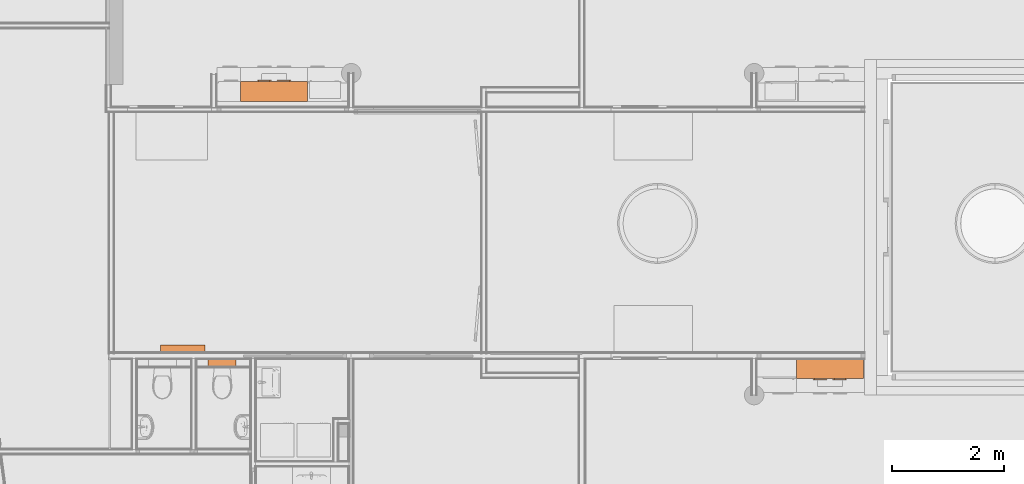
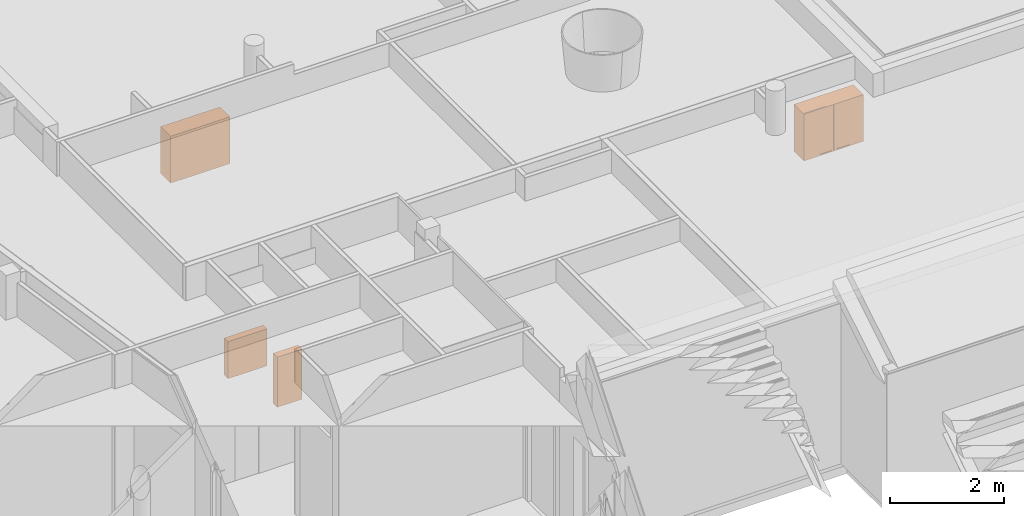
# One storey, part 111 of 167: 4 proxies.
"""IFC2X3 building model written with IfcOpenShell, lengths in millimetres."""

from ifc_helpers import new_model, entity, si_unit, converted_unit, derived_unit, money_unit, direction, frame, origin_with_axes, place, context, subcontext, project, spatial, open_shell, faceted_brep, surface_model, source, transform, mapped, type_object, type_shapes, element, save


model = new_model("IFC2X3")

# Units and contexts
model_context = context("Model", 3, precision=0.01, world=origin_with_axes(), true_north=direction((0.0, 1.0)))
plan_context = context("Plan", 3, precision=0.01, world=origin_with_axes(), true_north=direction((0.0, 1.0)))
body_context = subcontext(model_context, "Body", "Model", "MODEL_VIEW")
ifc_project = project(units=[si_unit("LENGTHUNIT", "METRE", prefix="MILLI"), si_unit("AREAUNIT", "SQUARE_METRE"), si_unit("VOLUMEUNIT", "CUBIC_METRE"), converted_unit("PLANEANGLEUNIT", "DEGREE", entity("IfcPlaneAngleMeasure", 0.0174532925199), si_unit("PLANEANGLEUNIT", "RADIAN"), dimensions=[0, 0, 0, 0, 0, 0, 0]), si_unit("SOLIDANGLEUNIT", "STERADIAN"), money_unit("EUR"), converted_unit("TIMEUNIT", "Year", entity("IfcTimeMeasure", 31556926.0), si_unit("TIMEUNIT", "SECOND"), dimensions=[0, 0, 1, 0, 0, 0, 0]), si_unit("MASSUNIT", "GRAM", prefix="KILO"), si_unit("THERMODYNAMICTEMPERATUREUNIT", "DEGREE_CELSIUS"), si_unit("LUMINOUSINTENSITYUNIT", "LUMEN"), si_unit("ENERGYUNIT", "JOULE", prefix="MEGA"), derived_unit("THERMALCONDUCTANCEUNIT", [(si_unit("POWERUNIT", "WATT"), 1), (si_unit("LENGTHUNIT", "METRE"), -1), (si_unit("THERMODYNAMICTEMPERATUREUNIT", "KELVIN"), -1)]), derived_unit("SPECIFICHEATCAPACITYUNIT", [(si_unit("ENERGYUNIT", "JOULE"), 1), (si_unit("MASSUNIT", "GRAM", prefix="KILO"), -1), (si_unit("THERMODYNAMICTEMPERATUREUNIT", "KELVIN"), -1)]), derived_unit("MASSDENSITYUNIT", [(si_unit("MASSUNIT", "GRAM", prefix="KILO"), 1), (si_unit("VOLUMEUNIT", "CUBIC_METRE"), -1)])], contexts=[model_context, plan_context])

# Site, building, storey
site_placement = place(None, origin_with_axes())
site = spatial("IfcSite", under=ifc_project, at=site_placement, Name="Site", CompositionType="ELEMENT")
building_placement = place(site_placement, origin_with_axes())
building = spatial("IfcBuilding", under=site, at=building_placement, Name="Naam gebouw", CompositionType="ELEMENT")
storey_placement = place(building_placement, origin_with_axes())
storey = spatial("IfcBuildingStorey", under=building, at=storey_placement, Name="Begane grond", CompositionType="ELEMENT", Elevation=0.0)

# Proxies
building_element_proxy_type_1 = type_object("IfcBuildingElementProxyType", Name="Brandslanghaspelkast 24 KM", PredefinedType="NOTDEFINED")
shared_shape_1 = source(origin_with_axes(), body_context, "Body", "Brep", [
    faceted_brep([(0.0, 0.0, 790.0), (-790.0, 0.0, 790.0), (-790.0, 0.0, 0.0), (0.0, 0.0, 0.0), (-10.0, 0.0, 10.0), (-780.0, 0.0, 10.0), (-780.0, 0.0, 780.0), (-10.0, 0.0, 780.0), (0.0, 135.0, 790.0), (-790.0, 135.0, 790.0), (-790.0, 135.0, 0.0), (0.0, 135.0, 0.0), (-10.0, 125.0, 10.0), (-780.0, 125.0, 10.0), (-780.0, 125.0, 780.0), (-10.0, 125.0, 780.0)], [[[0, 1, 2, 3], [4, 5, 6, 7]], [[8, 9, 1, 0]], [[1, 9, 10, 2]], [[10, 11, 3, 2]], [[8, 0, 3, 11]], [[4, 12, 13, 5]], [[5, 13, 14, 6]], [[6, 14, 15, 7]], [[7, 15, 12, 4]], [[9, 8, 11, 10]], [[13, 12, 15, 14]]]),
    faceted_brep([(-780.1, 0.0, 10.1), (-780.1, 10.0, 10.1), (-10.1, 10.0, 10.1), (-10.1, 0.0, 10.1), (-780.1, 0.0, 779.9), (-780.1, 10.0, 779.9), (-10.1, 10.0, 779.9), (-10.1, 0.0, 779.9)], [[[0, 1, 2, 3]], [[0, 4, 5, 1]], [[1, 5, 6, 2]], [[2, 6, 7, 3]], [[3, 7, 4, 0]], [[7, 6, 5, 4]]]),
])
type_shapes(building_element_proxy_type_1, [shared_shape_1])
proxy_1_placement = place(storey_placement, frame((25393.6304548, 37497.5, 750.0), z_axis=(0.0, 0.0, 1.0), x_axis=(-1.0, 0.0, 0.0)))
element("IfcBuildingElementProxy", 1, at=proxy_1_placement, inside=storey, type_object=building_element_proxy_type_1, Name="__Object-x", context=body_context, shape_type="MappedRepresentation", body=[
    mapped(shared_shape_1, transform((0.0, 0.0, 0.0))),
])
building_element_proxy_type_2 = type_object("IfcBuildingElementProxyType", Name="Inbouwreservoir 24 KM", PredefinedType="NOTDEFINED")
shared_shape_2 = source(origin_with_axes(), body_context, "Body", "SurfaceModel", [
    faceted_brep([(0.0, 0.0, 0.0), (501.499856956, 0.0, 0.0), (501.499856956, 0.0, 1070.0), (0.0, 0.0, 1070.0), (0.0, 145.000476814, 0.0), (501.499856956, 145.000476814, 0.0), (501.499856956, 145.000476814, 1070.0), (0.0, 145.000476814, 1070.0)], [[[0, 1, 2, 3]], [[0, 4, 5, 1]], [[1, 5, 6, 2]], [[3, 2, 6, 7]], [[4, 0, 3, 7]], [[5, 4, 7, 6]]]),
    surface_model("IfcShellBasedSurfaceModel", [(1.0, 0.0, 0.0), (500.499856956, 0.0, 0.0), (500.499856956, 145.000476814, 1070.0), (1.0, 145.000476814, 1070.0)], [open_shell([[[0, 1, 2, 3]]])]),
    surface_model("IfcShellBasedSurfaceModel", [(1.0, 0.0, 1070.0), (500.499856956, 0.0, 1070.0), (500.499856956, 145.000476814, 0.0), (1.0, 145.000476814, 0.0)], [open_shell([[[0, 1, 2, 3]]])]),
    faceted_brep([(375.749928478, -10.0, 820.0), (125.749928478, -10.0, 820.0), (125.749928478, 0.0, 820.0), (375.749928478, 0.0, 820.0), (375.749928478, -10.0, 980.0), (125.749928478, -10.0, 980.0), (125.749928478, 0.0, 980.0), (375.749928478, 0.0, 980.0)], [[[0, 1, 2, 3]], [[1, 0, 4, 5]], [[2, 1, 5, 6]], [[3, 2, 6, 7]], [[0, 3, 7, 4]], [[5, 4, 7, 6]]]),
    surface_model("IfcShellBasedSurfaceModel", [(325.749928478, 0.0, 850.0), (175.749928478, 0.0, 850.0), (175.749928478, 0.0, 950.0), (325.749928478, 0.0, 950.0)], [open_shell([[[0, 1, 2, 3]]])]),
    surface_model("IfcShellBasedSurfaceModel", [(175.749928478, -10.0, 820.0), (325.749928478, -10.0, 820.0), (325.749928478, -10.0, 855.0), (175.749928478, -10.0, 855.0)], [open_shell([[[0, 1, 2, 3]]])]),
    surface_model("IfcShellBasedSurfaceModel", [(175.749928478, -10.0, 855.0), (265.749928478, -10.0, 855.0), (265.749928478, -10.0, 945.0), (175.749928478, -10.0, 945.0)], [open_shell([[[0, 1, 2, 3]]])]),
    surface_model("IfcShellBasedSurfaceModel", [(265.749928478, -10.0, 855.0), (325.749928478, -10.0, 855.0), (325.749928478, -10.0, 945.0), (265.749928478, -10.0, 945.0)], [open_shell([[[0, 1, 2, 3]]])]),
])
type_shapes(building_element_proxy_type_2, [shared_shape_2])
proxy_2_placement = place(storey_placement, frame((26742.0675318, 37250.0, 0.0), z_axis=(0.0, 0.0, 1.0), x_axis=(-0.999999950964, 0.000313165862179, 0.0)))
element("IfcBuildingElementProxy", 2, at=proxy_2_placement, inside=storey, type_object=building_element_proxy_type_2, Name="__Object-x", context=body_context, shape_type="MappedRepresentation", body=[
    mapped(shared_shape_2, transform((0.0, 0.0, 0.0))),
])
building_element_proxy_type_3 = type_object("IfcBuildingElementProxyType", Name="Kast wand 2D 24", PredefinedType="NOTDEFINED")
shared_shape_3 = source(origin_with_axes(), body_context, "Body", "SurfaceModel", [
    faceted_brep([(0.0, 20.0, 2480.0), (0.0, 20.0, 2500.0), (-20.0, 20.0, 2500.0), (-20.0, 20.0, 2480.0), (0.0, 350.0, 2480.0), (0.0, 350.0, 2500.0), (-20.0, 350.0, 2500.0), (-1180.0, 350.0, 2500.0), (-1200.0, 350.0, 2500.0), (-1200.0, 20.0, 2500.0), (-1180.0, 20.0, 2500.0), (-1180.0, 20.0, 2480.0), (-1200.0, 20.0, 2480.0), (-1200.0, 350.0, 2480.0), (-1180.0, 350.0, 2480.0), (-20.0, 350.0, 2480.0)], [[[0, 1, 2, 3]], [[4, 5, 1, 0]], [[1, 5, 6, 7, 8, 9, 10, 2]], [[3, 2, 10, 11]], [[0, 3, 11, 12, 13, 14, 15, 4]], [[15, 6, 5, 4]], [[14, 7, 6, 15]], [[13, 8, 7, 14]], [[12, 9, 8, 13]], [[11, 10, 9, 12]]]),
    faceted_brep([(0.0, 20.0, 1500.0), (0.0, 20.0, 1520.0), (-20.0, 20.0, 1520.0), (-20.0, 20.0, 1500.0), (0.0, 350.0, 1500.0), (0.0, 350.0, 1520.0), (-20.0, 350.0, 1520.0), (-1180.0, 350.0, 1520.0), (-1200.0, 350.0, 1520.0), (-1200.0, 20.0, 1520.0), (-1180.0, 20.0, 1520.0), (-1180.0, 20.0, 1500.0), (-1200.0, 20.0, 1500.0), (-1200.0, 350.0, 1500.0), (-1180.0, 350.0, 1500.0), (-20.0, 350.0, 1500.0)], [[[0, 1, 2, 3]], [[4, 5, 1, 0]], [[1, 5, 6, 7, 8, 9, 10, 2]], [[3, 2, 10, 11]], [[0, 3, 11, 12, 13, 14, 15, 4]], [[15, 6, 5, 4]], [[14, 7, 6, 15]], [[13, 8, 7, 14]], [[12, 9, 8, 13]], [[11, 10, 9, 12]]]),
    faceted_brep([(0.0, 20.0, 1520.0), (0.0, 20.0, 2480.0), (-20.0, 20.0, 2480.0), (-20.0, 20.0, 1520.0), (0.0, 350.0, 1520.0), (0.0, 350.0, 2480.0), (-1200.0, 350.0, 2480.0), (-1200.0, 20.0, 2480.0), (-1180.0, 20.0, 2480.0), (-1180.0, 330.0, 2480.0), (-20.0, 330.0, 2480.0), (-20.0, 330.0, 1520.0), (-1180.0, 330.0, 1520.0), (-1180.0, 20.0, 1520.0), (-1200.0, 20.0, 1520.0), (-1200.0, 350.0, 1520.0)], [[[0, 1, 2, 3]], [[4, 5, 1, 0]], [[1, 5, 6, 7, 8, 9, 10, 2]], [[3, 2, 10, 11]], [[0, 3, 11, 12, 13, 14, 15, 4]], [[15, 6, 5, 4]], [[14, 7, 6, 15]], [[13, 8, 7, 14]], [[12, 9, 8, 13]], [[11, 10, 9, 12]]]),
    faceted_brep([(-1180.0, 20.0, 1813.33333333), (-1180.0, 20.0, 1833.33333333), (-1180.0, 330.0, 1833.33333333), (-1180.0, 330.0, 1813.33333333), (-20.0, 20.0, 1813.33333333), (-20.0, 20.0, 1833.33333333), (-20.0, 330.0, 1833.33333333), (-20.0, 330.0, 1813.33333333)], [[[0, 1, 2, 3]], [[4, 5, 1, 0]], [[1, 5, 6, 2]], [[3, 2, 6, 7]], [[0, 3, 7, 4]], [[7, 6, 5, 4]]]),
    faceted_brep([(-1180.0, 20.0, 2146.66666667), (-1180.0, 20.0, 2166.66666667), (-1180.0, 330.0, 2166.66666667), (-1180.0, 330.0, 2146.66666667), (-20.0, 20.0, 2146.66666667), (-20.0, 20.0, 2166.66666667), (-20.0, 330.0, 2166.66666667), (-20.0, 330.0, 2146.66666667)], [[[0, 1, 2, 3]], [[4, 5, 1, 0]], [[1, 5, 6, 2]], [[3, 2, 6, 7]], [[0, 3, 7, 4]], [[7, 6, 5, 4]]]),
    faceted_brep([(-1.5, 20.0, 1501.5), (-1.5, 0.0, 1501.5), (-598.5, 0.0, 1501.5), (-598.5, 20.0, 1501.5), (-1.5, 20.0, 2498.5), (-1.5, 0.0, 2498.5), (-598.5, 0.0, 2498.5), (-598.5, 20.0, 2498.5)], [[[0, 1, 2, 3]], [[4, 5, 1, 0]], [[1, 5, 6, 2]], [[3, 2, 6, 7]], [[0, 3, 7, 4]], [[7, 6, 5, 4]]]),
    faceted_brep([(-298.5, -28.1480502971, 1548.7283614), (-298.5, -27.0, 1548.5), (-298.5, -25.8519497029, 1548.7283614), (-298.5, -24.8786796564, 1549.37867966), (-298.5, -24.2283614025, 1550.3519497), (-298.5, -24.0, 1551.5), (-298.5, -24.2283614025, 1552.6480503), (-298.5, -24.8786796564, 1553.62132034), (-298.5, -25.8519497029, 1554.2716386), (-298.5, -27.0, 1554.5), (-298.5, -28.1480502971, 1554.2716386), (-298.5, -29.1213203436, 1553.62132034), (-298.5, -29.7716385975, 1552.6480503), (-298.5, -30.0, 1551.5), (-298.5, -29.7716385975, 1550.3519497), (-298.5, -29.1213203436, 1549.37867966), (-548.5, -28.1480502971, 1548.7283614), (-548.5, -27.0, 1548.5), (-548.5, -25.8519497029, 1548.7283614), (-548.5, -24.8786796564, 1549.37867966), (-548.5, -24.2283614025, 1550.3519497), (-548.5, -24.0, 1551.5), (-548.5, -24.2283614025, 1552.6480503), (-548.5, -24.8786796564, 1553.62132034), (-548.5, -25.8519497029, 1554.2716386), (-548.5, -27.0, 1554.5), (-548.5, -28.1480502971, 1554.2716386), (-548.5, -29.1213203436, 1553.62132034), (-548.5, -29.7716385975, 1552.6480503), (-548.5, -30.0, 1551.5), (-548.5, -29.7716385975, 1550.3519497), (-548.5, -29.1213203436, 1549.37867966)], [[[0, 1, 2, 3, 4, 5, 6, 7, 8, 9, 10, 11, 12, 13, 14, 15]], [[0, 16, 17, 1]], [[1, 17, 18, 2]], [[2, 18, 19, 3]], [[3, 19, 20, 4]], [[4, 20, 21, 5]], [[5, 21, 22, 6]], [[6, 22, 23, 7]], [[7, 23, 24, 8]], [[8, 24, 25, 9]], [[9, 25, 26, 10]], [[10, 26, 27, 11]], [[11, 27, 28, 12]], [[12, 28, 29, 13]], [[13, 29, 30, 14]], [[14, 30, 31, 15]], [[15, 31, 16, 0]], [[16, 31, 30, 29, 28, 27, 26, 25, 24, 23, 22, 21, 20, 19, 18, 17]]]),
    surface_model("IfcShellBasedSurfaceModel", [(-321.190301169, -24.156637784, 1550.54329142), (-321.190301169, 0.0, 1550.54329142), (-321.0, 0.0, 1551.5), (-321.0, -24.0, 1551.5), (-321.732233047, -24.5761600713, 1549.73223305), (-321.732233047, 0.0, 1549.73223305), (-322.543291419, 0.0, 1549.19030117), (-323.5, 0.0, 1549.0), (-324.456708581, 0.0, 1549.19030117), (-325.267766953, 0.0, 1549.73223305), (-325.809698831, 0.0, 1550.54329142), (-326.0, 0.0, 1551.5), (-325.809698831, 0.0, 1552.45670858), (-325.267766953, 0.0, 1553.26776695), (-324.456708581, 0.0, 1553.80969883), (-323.5, 0.0, 1554.0), (-322.543291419, 0.0, 1553.80969883), (-321.732233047, 0.0, 1553.26776695), (-321.190301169, 0.0, 1552.45670858), (-321.190301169, -24.156637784, 1552.45670858), (-322.543291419, -25.0855049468, 1549.19030117), (-323.5, -25.3416876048, 1549.0), (-324.456708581, -25.0855049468, 1549.19030117), (-325.267766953, -24.5761600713, 1549.73223305), (-325.809698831, -24.156637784, 1550.54329142), (-326.0, -24.0, 1551.5), (-325.809698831, -24.156637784, 1552.45670858), (-325.267766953, -24.5761600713, 1553.26776695), (-324.456708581, -25.0855049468, 1553.80969883), (-323.5, -25.3416876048, 1554.0), (-322.543291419, -25.0855049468, 1553.80969883), (-321.732233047, -24.5761600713, 1553.26776695)], [open_shell([[[0, 1, 2, 3]], [[4, 5, 1, 0]], [[1, 5, 6, 7, 8, 9, 10, 11, 12, 13, 14, 15, 16, 17, 18, 2]], [[3, 2, 18, 19]], [[20, 6, 5, 4]], [[21, 7, 6, 20]], [[22, 8, 7, 21]], [[23, 9, 8, 22]], [[24, 10, 9, 23]], [[25, 11, 10, 24]], [[26, 12, 11, 25]], [[27, 13, 12, 26]], [[28, 14, 13, 27]], [[29, 15, 14, 28]], [[30, 16, 15, 29]], [[31, 17, 16, 30]], [[19, 18, 17, 31]]])]),
    surface_model("IfcShellBasedSurfaceModel", [(-521.190301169, -24.156637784, 1550.54329142), (-521.190301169, 0.0, 1550.54329142), (-521.0, 0.0, 1551.5), (-521.0, -24.0, 1551.5), (-521.732233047, -24.5761600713, 1549.73223305), (-521.732233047, 0.0, 1549.73223305), (-522.543291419, 0.0, 1549.19030117), (-523.5, 0.0, 1549.0), (-524.456708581, 0.0, 1549.19030117), (-525.267766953, 0.0, 1549.73223305), (-525.809698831, 0.0, 1550.54329142), (-526.0, 0.0, 1551.5), (-525.809698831, 0.0, 1552.45670858), (-525.267766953, 0.0, 1553.26776695), (-524.456708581, 0.0, 1553.80969883), (-523.5, 0.0, 1554.0), (-522.543291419, 0.0, 1553.80969883), (-521.732233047, 0.0, 1553.26776695), (-521.190301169, 0.0, 1552.45670858), (-521.190301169, -24.156637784, 1552.45670858), (-522.543291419, -25.0855049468, 1549.19030117), (-523.5, -25.3416876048, 1549.0), (-524.456708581, -25.0855049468, 1549.19030117), (-525.267766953, -24.5761600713, 1549.73223305), (-525.809698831, -24.156637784, 1550.54329142), (-526.0, -24.0, 1551.5), (-525.809698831, -24.156637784, 1552.45670858), (-525.267766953, -24.5761600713, 1553.26776695), (-524.456708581, -25.0855049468, 1553.80969883), (-523.5, -25.3416876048, 1554.0), (-522.543291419, -25.0855049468, 1553.80969883), (-521.732233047, -24.5761600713, 1553.26776695)], [open_shell([[[0, 1, 2, 3]], [[4, 5, 1, 0]], [[1, 5, 6, 7, 8, 9, 10, 11, 12, 13, 14, 15, 16, 17, 18, 2]], [[3, 2, 18, 19]], [[20, 6, 5, 4]], [[21, 7, 6, 20]], [[22, 8, 7, 21]], [[23, 9, 8, 22]], [[24, 10, 9, 23]], [[25, 11, 10, 24]], [[26, 12, 11, 25]], [[27, 13, 12, 26]], [[28, 14, 13, 27]], [[29, 15, 14, 28]], [[30, 16, 15, 29]], [[31, 17, 16, 30]], [[19, 18, 17, 31]]])]),
    faceted_brep([(-1198.5, 20.0, 1501.5), (-601.5, 20.0, 1501.5), (-601.5, 0.0, 1501.5), (-1198.5, 0.0, 1501.5), (-1198.5, 20.0, 2498.5), (-601.5, 20.0, 2498.5), (-601.5, 0.0, 2498.5), (-1198.5, 0.0, 2498.5)], [[[0, 1, 2, 3]], [[0, 4, 5, 1]], [[1, 5, 6, 2]], [[3, 2, 6, 7]], [[4, 0, 3, 7]], [[5, 4, 7, 6]]]),
    faceted_brep([(-901.5, -28.1480502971, 1548.7283614), (-901.5, -29.1213203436, 1549.37867966), (-901.5, -29.7716385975, 1550.3519497), (-901.5, -30.0, 1551.5), (-901.5, -29.7716385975, 1552.6480503), (-901.5, -29.1213203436, 1553.62132034), (-901.5, -28.1480502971, 1554.2716386), (-901.5, -27.0, 1554.5), (-901.5, -25.8519497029, 1554.2716386), (-901.5, -24.8786796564, 1553.62132034), (-901.5, -24.2283614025, 1552.6480503), (-901.5, -24.0, 1551.5), (-901.5, -24.2283614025, 1550.3519497), (-901.5, -24.8786796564, 1549.37867966), (-901.5, -25.8519497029, 1548.7283614), (-901.5, -27.0, 1548.5), (-651.5, -28.1480502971, 1548.7283614), (-651.5, -29.1213203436, 1549.37867966), (-651.5, -29.7716385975, 1550.3519497), (-651.5, -30.0, 1551.5), (-651.5, -29.7716385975, 1552.6480503), (-651.5, -29.1213203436, 1553.62132034), (-651.5, -28.1480502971, 1554.2716386), (-651.5, -27.0, 1554.5), (-651.5, -25.8519497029, 1554.2716386), (-651.5, -24.8786796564, 1553.62132034), (-651.5, -24.2283614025, 1552.6480503), (-651.5, -24.0, 1551.5), (-651.5, -24.2283614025, 1550.3519497), (-651.5, -24.8786796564, 1549.37867966), (-651.5, -25.8519497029, 1548.7283614), (-651.5, -27.0, 1548.5)], [[[0, 1, 2, 3, 4, 5, 6, 7, 8, 9, 10, 11, 12, 13, 14, 15]], [[1, 0, 16, 17]], [[2, 1, 17, 18]], [[3, 2, 18, 19]], [[4, 3, 19, 20]], [[5, 4, 20, 21]], [[6, 5, 21, 22]], [[7, 6, 22, 23]], [[8, 7, 23, 24]], [[9, 8, 24, 25]], [[10, 9, 25, 26]], [[11, 10, 26, 27]], [[12, 11, 27, 28]], [[13, 12, 28, 29]], [[14, 13, 29, 30]], [[15, 14, 30, 31]], [[0, 15, 31, 16]], [[16, 31, 30, 29, 28, 27, 26, 25, 24, 23, 22, 21, 20, 19, 18, 17]]]),
    surface_model("IfcShellBasedSurfaceModel", [(-878.809698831, -24.156637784, 1550.54329142), (-879.0, -24.0, 1551.5), (-879.0, 0.0, 1551.5), (-878.809698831, 0.0, 1550.54329142), (-878.809698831, -24.156637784, 1552.45670858), (-878.809698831, 0.0, 1552.45670858), (-878.267766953, 0.0, 1553.26776695), (-877.456708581, 0.0, 1553.80969883), (-876.5, 0.0, 1554.0), (-875.543291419, 0.0, 1553.80969883), (-874.732233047, 0.0, 1553.26776695), (-874.190301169, 0.0, 1552.45670858), (-874.0, 0.0, 1551.5), (-874.190301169, 0.0, 1550.54329142), (-874.732233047, 0.0, 1549.73223305), (-875.543291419, 0.0, 1549.19030117), (-876.5, 0.0, 1549.0), (-877.456708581, 0.0, 1549.19030117), (-878.267766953, 0.0, 1549.73223305), (-878.267766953, -24.5761600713, 1549.73223305), (-878.267766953, -24.5761600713, 1553.26776695), (-877.456708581, -25.0855049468, 1553.80969883), (-876.5, -25.3416876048, 1554.0), (-875.543291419, -25.0855049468, 1553.80969883), (-874.732233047, -24.5761600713, 1553.26776695), (-874.190301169, -24.156637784, 1552.45670858), (-874.0, -24.0, 1551.5), (-874.190301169, -24.156637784, 1550.54329142), (-874.732233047, -24.5761600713, 1549.73223305), (-875.543291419, -25.0855049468, 1549.19030117), (-876.5, -25.3416876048, 1549.0), (-877.456708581, -25.0855049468, 1549.19030117)], [open_shell([[[0, 1, 2, 3]], [[1, 4, 5, 2]], [[3, 2, 5, 6, 7, 8, 9, 10, 11, 12, 13, 14, 15, 16, 17, 18]], [[19, 0, 3, 18]], [[4, 20, 6, 5]], [[20, 21, 7, 6]], [[21, 22, 8, 7]], [[22, 23, 9, 8]], [[23, 24, 10, 9]], [[24, 25, 11, 10]], [[25, 26, 12, 11]], [[26, 27, 13, 12]], [[27, 28, 14, 13]], [[28, 29, 15, 14]], [[29, 30, 16, 15]], [[30, 31, 17, 16]], [[31, 19, 18, 17]]])]),
    surface_model("IfcShellBasedSurfaceModel", [(-678.809698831, -24.156637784, 1550.54329142), (-679.0, -24.0, 1551.5), (-679.0, 0.0, 1551.5), (-678.809698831, 0.0, 1550.54329142), (-678.809698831, -24.156637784, 1552.45670858), (-678.809698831, 0.0, 1552.45670858), (-678.267766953, 0.0, 1553.26776695), (-677.456708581, 0.0, 1553.80969883), (-676.5, 0.0, 1554.0), (-675.543291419, 0.0, 1553.80969883), (-674.732233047, 0.0, 1553.26776695), (-674.190301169, 0.0, 1552.45670858), (-674.0, 0.0, 1551.5), (-674.190301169, 0.0, 1550.54329142), (-674.732233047, 0.0, 1549.73223305), (-675.543291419, 0.0, 1549.19030117), (-676.5, 0.0, 1549.0), (-677.456708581, 0.0, 1549.19030117), (-678.267766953, 0.0, 1549.73223305), (-678.267766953, -24.5761600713, 1549.73223305), (-678.267766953, -24.5761600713, 1553.26776695), (-677.456708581, -25.0855049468, 1553.80969883), (-676.5, -25.3416876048, 1554.0), (-675.543291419, -25.0855049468, 1553.80969883), (-674.732233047, -24.5761600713, 1553.26776695), (-674.190301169, -24.156637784, 1552.45670858), (-674.0, -24.0, 1551.5), (-674.190301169, -24.156637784, 1550.54329142), (-674.732233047, -24.5761600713, 1549.73223305), (-675.543291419, -25.0855049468, 1549.19030117), (-676.5, -25.3416876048, 1549.0), (-677.456708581, -25.0855049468, 1549.19030117)], [open_shell([[[0, 1, 2, 3]], [[1, 4, 5, 2]], [[3, 2, 5, 6, 7, 8, 9, 10, 11, 12, 13, 14, 15, 16, 17, 18]], [[19, 0, 3, 18]], [[4, 20, 6, 5]], [[20, 21, 7, 6]], [[21, 22, 8, 7]], [[22, 23, 9, 8]], [[23, 24, 10, 9]], [[24, 25, 11, 10]], [[25, 26, 12, 11]], [[26, 27, 13, 12]], [[27, 28, 14, 13]], [[28, 29, 15, 14]], [[29, 30, 16, 15]], [[30, 31, 17, 16]], [[31, 19, 18, 17]]])]),
])
type_shapes(building_element_proxy_type_3, [shared_shape_3])
for number, where, z_axis, x_axis in (
    (3, (26823.3441391, 42199.9999946, 200.07308756), (0.0, 0.0, 1.0), (-1.0, 0.0, 0.0)),
    (4, (37953.3441356, 36900.0, 200.07308756), (0.0, 0.0, 1.0), (1.0, 0.0, 0.0)),
):
    element("IfcBuildingElementProxy", number, at=place(storey_placement, frame(where, z_axis=z_axis, x_axis=x_axis)), inside=storey, type_object=building_element_proxy_type_3, Name="__Object-x", context=body_context, shape_type="MappedRepresentation", body=[
        mapped(shared_shape_3, transform((0.0, 0.0, 0.0))),
    ])

save(model, "model.ifc")
